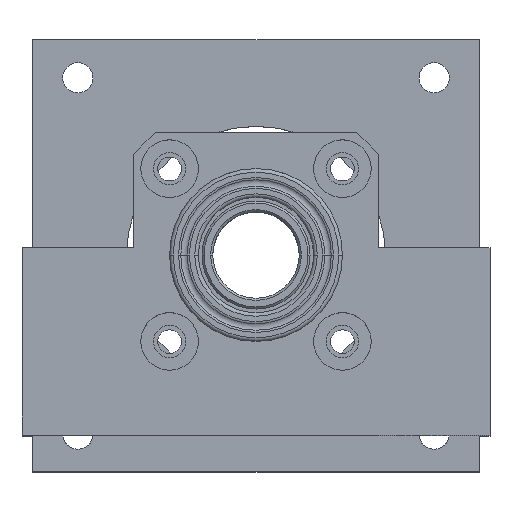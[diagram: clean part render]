
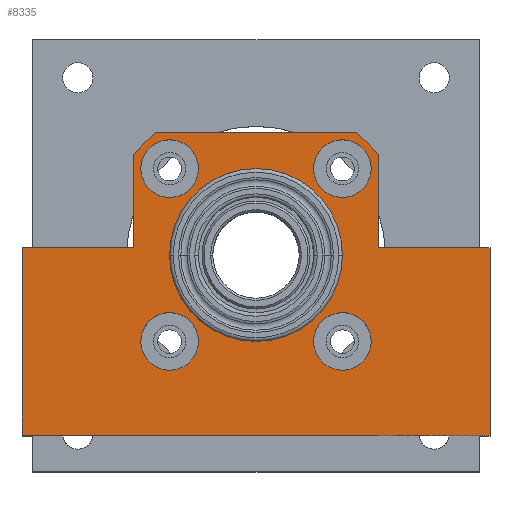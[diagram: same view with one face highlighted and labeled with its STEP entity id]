
A CAD part, top view. The second image highlights one B-rep face of the part: STEP entity #8335.
In plain terms, the highlighted planar face has unit normal (0, 0, 1).
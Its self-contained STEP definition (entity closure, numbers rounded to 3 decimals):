
#6273=DIRECTION('',(1.,0.,0.));
#6274=VECTOR('',#6273,65.);
#6275=CARTESIAN_POINT('',(-32.5,-25.,-78.));
#6276=LINE('',#6275,#6274);
#6477=DIRECTION('',(-1.,0.,0.));
#6478=VECTOR('',#6477,15.5);
#6479=CARTESIAN_POINT('',(32.5,1.,-78.));
#6480=LINE('',#6479,#6478);
#6722=DIRECTION('',(0.,-1.,0.));
#6723=VECTOR('',#6722,13.);
#6724=CARTESIAN_POINT('',(-17.,14.,-78.));
#6725=LINE('',#6724,#6723);
#6734=DIRECTION('',(0.,-1.,0.));
#6735=VECTOR('',#6734,13.);
#6736=CARTESIAN_POINT('',(17.,14.,-78.));
#6737=LINE('',#6736,#6735);
#6738=DIRECTION('',(0.,1.,0.));
#6739=VECTOR('',#6738,26.);
#6740=CARTESIAN_POINT('',(-32.5,-25.,-78.));
#6741=LINE('',#6740,#6739);
#6742=DIRECTION('',(1.,0.,0.));
#6743=VECTOR('',#6742,15.5);
#6744=CARTESIAN_POINT('',(-32.5,1.,-78.));
#6745=LINE('',#6744,#6743);
#6746=DIRECTION('',(0.707,0.707,0.));
#6747=VECTOR('',#6746,4.243);
#6748=CARTESIAN_POINT('',(-17.,14.,-78.));
#6749=LINE('',#6748,#6747);
#6750=DIRECTION('',(1.,0.,0.));
#6751=VECTOR('',#6750,28.);
#6752=CARTESIAN_POINT('',(-14.,17.,-78.));
#6753=LINE('',#6752,#6751);
#6754=DIRECTION('',(0.707,-0.707,0.));
#6755=VECTOR('',#6754,4.243);
#6756=CARTESIAN_POINT('',(14.,17.,-78.));
#6757=LINE('',#6756,#6755);
#6758=CARTESIAN_POINT('',(12.,-12.,-78.));
#6759=DIRECTION('',(0.,0.,1.));
#6760=DIRECTION('',(1.,0.,0.));
#6761=AXIS2_PLACEMENT_3D('',#6758,#6759,#6760);
#6763=CARTESIAN_POINT('',(12.,-12.,-78.));
#6764=DIRECTION('',(0.,0.,1.));
#6765=DIRECTION('',(-1.,0.,0.));
#6766=AXIS2_PLACEMENT_3D('',#6763,#6764,#6765);
#6768=CARTESIAN_POINT('',(-12.,12.,-78.));
#6769=DIRECTION('',(0.,0.,1.));
#6770=DIRECTION('',(1.,0.,0.));
#6771=AXIS2_PLACEMENT_3D('',#6768,#6769,#6770);
#6773=CARTESIAN_POINT('',(-12.,12.,-78.));
#6774=DIRECTION('',(0.,0.,1.));
#6775=DIRECTION('',(-1.,0.,0.));
#6776=AXIS2_PLACEMENT_3D('',#6773,#6774,#6775);
#6778=CARTESIAN_POINT('',(-12.,-12.,-78.));
#6779=DIRECTION('',(0.,0.,1.));
#6780=DIRECTION('',(1.,0.,0.));
#6781=AXIS2_PLACEMENT_3D('',#6778,#6779,#6780);
#6783=CARTESIAN_POINT('',(-12.,-12.,-78.));
#6784=DIRECTION('',(0.,0.,1.));
#6785=DIRECTION('',(-1.,0.,0.));
#6786=AXIS2_PLACEMENT_3D('',#6783,#6784,#6785);
#6788=CARTESIAN_POINT('',(0.,0.,-78.));
#6789=DIRECTION('',(0.,0.,1.));
#6790=DIRECTION('',(-1.,0.,0.));
#6791=AXIS2_PLACEMENT_3D('',#6788,#6789,#6790);
#6793=CARTESIAN_POINT('',(0.,0.,-78.));
#6794=DIRECTION('',(0.,0.,1.));
#6795=DIRECTION('',(1.,0.,0.));
#6796=AXIS2_PLACEMENT_3D('',#6793,#6794,#6795);
#6798=CARTESIAN_POINT('',(12.,12.,-78.));
#6799=DIRECTION('',(0.,0.,1.));
#6800=DIRECTION('',(1.,0.,0.));
#6801=AXIS2_PLACEMENT_3D('',#6798,#6799,#6800);
#6803=CARTESIAN_POINT('',(12.,12.,-78.));
#6804=DIRECTION('',(0.,0.,1.));
#6805=DIRECTION('',(-1.,0.,0.));
#6806=AXIS2_PLACEMENT_3D('',#6803,#6804,#6805);
#6824=DIRECTION('',(0.,1.,0.));
#6825=VECTOR('',#6824,26.);
#6826=CARTESIAN_POINT('',(32.5,-25.,-78.));
#6827=LINE('',#6826,#6825);
#7521=CARTESIAN_POINT('',(-32.5,-25.,-78.));
#7522=VERTEX_POINT('',#7521);
#7523=CARTESIAN_POINT('',(32.5,-25.,-78.));
#7524=VERTEX_POINT('',#7523);
#7614=CARTESIAN_POINT('',(32.5,1.,-78.));
#7615=VERTEX_POINT('',#7614);
#7616=CARTESIAN_POINT('',(17.,1.,-78.));
#7617=VERTEX_POINT('',#7616);
#7702=CARTESIAN_POINT('',(-17.,1.,-78.));
#7703=VERTEX_POINT('',#7702);
#7704=CARTESIAN_POINT('',(-32.5,1.,-78.));
#7705=VERTEX_POINT('',#7704);
#7718=CARTESIAN_POINT('',(-17.,14.,-78.));
#7719=VERTEX_POINT('',#7718);
#7720=CARTESIAN_POINT('',(17.,14.,-78.));
#7721=VERTEX_POINT('',#7720);
#7722=CARTESIAN_POINT('',(-14.,17.,-78.));
#7723=VERTEX_POINT('',#7722);
#7724=CARTESIAN_POINT('',(14.,17.,-78.));
#7725=VERTEX_POINT('',#7724);
#7726=CARTESIAN_POINT('',(16.,-12.,-78.));
#7727=CARTESIAN_POINT('',(8.,-12.,-78.));
#7728=VERTEX_POINT('',#7726);
#7729=VERTEX_POINT('',#7727);
#7730=CARTESIAN_POINT('',(-8.,12.,-78.));
#7731=CARTESIAN_POINT('',(-16.,12.,-78.));
#7732=VERTEX_POINT('',#7730);
#7733=VERTEX_POINT('',#7731);
#7734=CARTESIAN_POINT('',(-8.,-12.,-78.));
#7735=CARTESIAN_POINT('',(-16.,-12.,-78.));
#7736=VERTEX_POINT('',#7734);
#7737=VERTEX_POINT('',#7735);
#7738=CARTESIAN_POINT('',(-12.,0.,-78.));
#7739=CARTESIAN_POINT('',(12.,0.,-78.));
#7740=VERTEX_POINT('',#7738);
#7741=VERTEX_POINT('',#7739);
#7742=CARTESIAN_POINT('',(16.,12.,-78.));
#7743=CARTESIAN_POINT('',(8.,12.,-78.));
#7744=VERTEX_POINT('',#7742);
#7745=VERTEX_POINT('',#7743);
#8282=CARTESIAN_POINT('',(35.,30.,-78.));
#8283=DIRECTION('',(0.,0.,1.));
#8284=DIRECTION('',(-1.,0.,0.));
#8285=AXIS2_PLACEMENT_3D('',#8282,#8283,#8284);
#8286=PLANE('',#8285);
#8288=ORIENTED_EDGE('',*,*,#8287,.T.);
#8289=ORIENTED_EDGE('',*,*,#8062,.F.);
#8291=ORIENTED_EDGE('',*,*,#8290,.F.);
#8292=ORIENTED_EDGE('',*,*,#7883,.F.);
#8294=ORIENTED_EDGE('',*,*,#8293,.T.);
#8295=ORIENTED_EDGE('',*,*,#8236,.T.);
#8296=ORIENTED_EDGE('',*,*,#8273,.F.);
#8298=ORIENTED_EDGE('',*,*,#8297,.T.);
#8300=ORIENTED_EDGE('',*,*,#8299,.T.);
#8302=ORIENTED_EDGE('',*,*,#8301,.T.);
#8303=EDGE_LOOP('',(#8288,#8289,#8291,#8292,#8294,#8295,#8296,#8298,#8300,
#8302));
#8304=FACE_OUTER_BOUND('',#8303,.F.);
#8306=ORIENTED_EDGE('',*,*,#8305,.T.);
#8308=ORIENTED_EDGE('',*,*,#8307,.T.);
#8309=EDGE_LOOP('',(#8306,#8308));
#8310=FACE_BOUND('',#8309,.F.);
#8312=ORIENTED_EDGE('',*,*,#8311,.T.);
#8314=ORIENTED_EDGE('',*,*,#8313,.T.);
#8315=EDGE_LOOP('',(#8312,#8314));
#8316=FACE_BOUND('',#8315,.F.);
#8318=ORIENTED_EDGE('',*,*,#8317,.T.);
#8320=ORIENTED_EDGE('',*,*,#8319,.T.);
#8321=EDGE_LOOP('',(#8318,#8320));
#8322=FACE_BOUND('',#8321,.F.);
#8324=ORIENTED_EDGE('',*,*,#8323,.T.);
#8326=ORIENTED_EDGE('',*,*,#8325,.T.);
#8327=EDGE_LOOP('',(#8324,#8326));
#8328=FACE_BOUND('',#8327,.F.);
#8330=ORIENTED_EDGE('',*,*,#8329,.T.);
#8332=ORIENTED_EDGE('',*,*,#8331,.T.);
#8333=EDGE_LOOP('',(#8330,#8332));
#8334=FACE_BOUND('',#8333,.F.);
#6762=CIRCLE('',#6761,4.);
#6767=CIRCLE('',#6766,4.);
#6772=CIRCLE('',#6771,4.);
#6777=CIRCLE('',#6776,4.);
#6782=CIRCLE('',#6781,4.);
#6787=CIRCLE('',#6786,4.);
#6792=CIRCLE('',#6791,12.);
#6797=CIRCLE('',#6796,12.);
#6802=CIRCLE('',#6801,4.);
#6807=CIRCLE('',#6806,4.);
#7883=EDGE_CURVE('',#7522,#7524,#6276,.T.);
#8062=EDGE_CURVE('',#7615,#7617,#6480,.T.);
#8236=EDGE_CURVE('',#7705,#7703,#6745,.T.);
#8273=EDGE_CURVE('',#7719,#7703,#6725,.T.);
#8287=EDGE_CURVE('',#7721,#7617,#6737,.T.);
#8290=EDGE_CURVE('',#7524,#7615,#6827,.T.);
#8293=EDGE_CURVE('',#7522,#7705,#6741,.T.);
#8297=EDGE_CURVE('',#7719,#7723,#6749,.T.);
#8299=EDGE_CURVE('',#7723,#7725,#6753,.T.);
#8301=EDGE_CURVE('',#7725,#7721,#6757,.T.);
#8305=EDGE_CURVE('',#7728,#7729,#6762,.T.);
#8307=EDGE_CURVE('',#7729,#7728,#6767,.T.);
#8311=EDGE_CURVE('',#7732,#7733,#6772,.T.);
#8313=EDGE_CURVE('',#7733,#7732,#6777,.T.);
#8317=EDGE_CURVE('',#7736,#7737,#6782,.T.);
#8319=EDGE_CURVE('',#7737,#7736,#6787,.T.);
#8323=EDGE_CURVE('',#7740,#7741,#6792,.T.);
#8325=EDGE_CURVE('',#7741,#7740,#6797,.T.);
#8329=EDGE_CURVE('',#7744,#7745,#6802,.T.);
#8331=EDGE_CURVE('',#7745,#7744,#6807,.T.);
#8335=ADVANCED_FACE('',(#8304,#8310,#8316,#8322,#8328,#8334),#8286,.T.);
